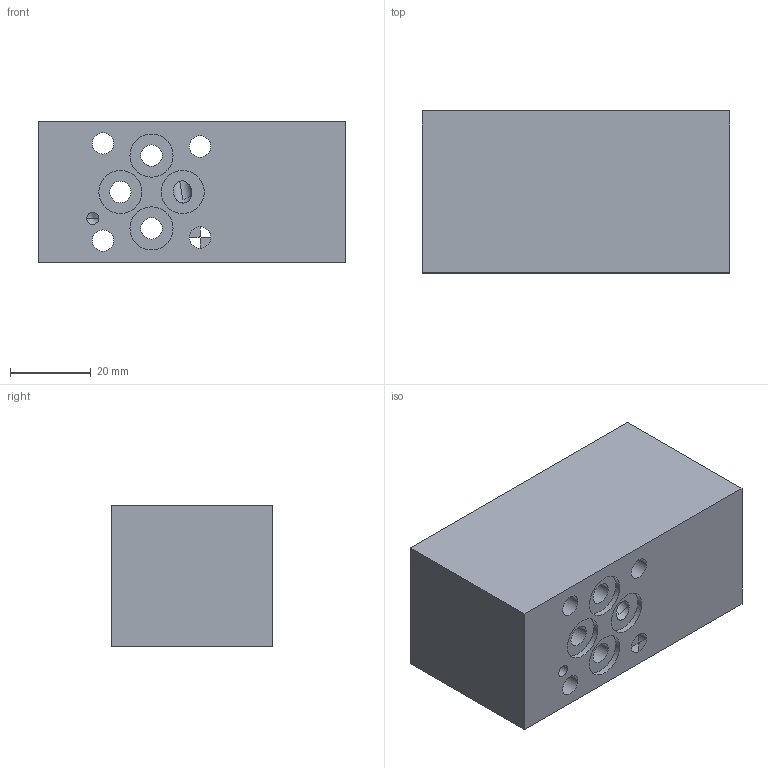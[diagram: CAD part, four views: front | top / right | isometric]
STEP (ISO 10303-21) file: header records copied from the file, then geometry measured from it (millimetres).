
FILE_DESCRIPTION((''),'2;1');
FILE_NAME('18164900','2023-10-12T',('l.soukupova'),(''),'PRO/ENGINEER BY PARAMETRIC TECHNOLOGY CORPORATION, 2015440','PRO/ENGINEER BY PARAMETRIC TECHNOLOGY CORPORATION, 2015440','');
FILE_SCHEMA(('AUTOMOTIVE_DESIGN { 1 0 10303 214 1 1 1 1 }'));
Length unit declared in the file: millimetre
Products named in the file (1): 18164900
Bounding box: 76 x 40 x 35 mm (x, y, z)
Volume: 87044.4 mm3; surface area: 23150 mm2
Topology: 1 solids, 4 shells, 100 faces, 399 edges, 364 vertices
Faces by surface type: cylinder 56, cone 30, plane 14
Entity records: 5521 total; most frequent: CARTESIAN_POINT 1474, DIRECTION 715, ORIENTED_EDGE 482, AXIS2_PLACEMENT_3D 253, EDGE_CURVE 247, VECTOR 209, LINE 209, PRESENTATION_STYLE_ASSIGNMENT 191
